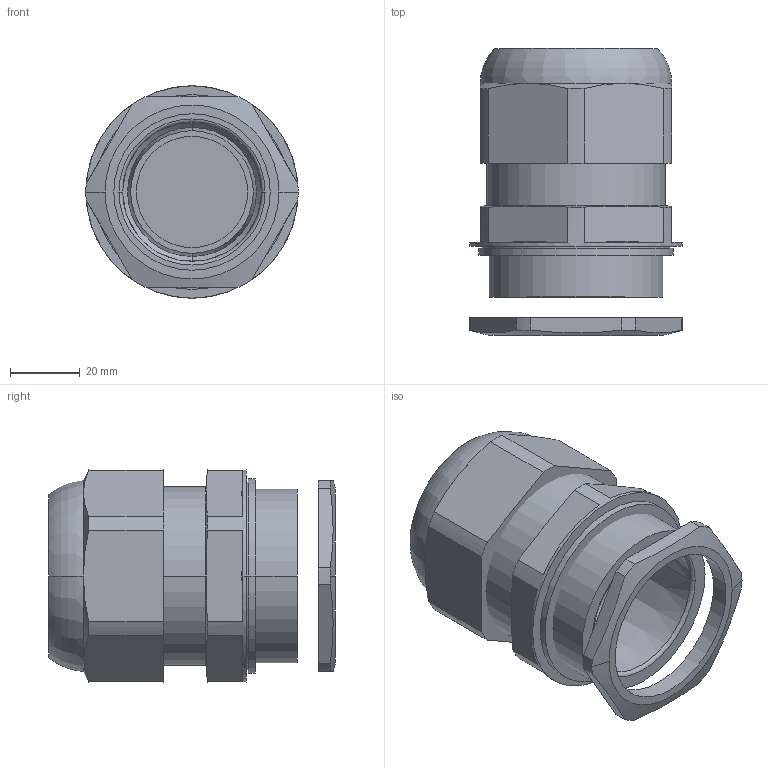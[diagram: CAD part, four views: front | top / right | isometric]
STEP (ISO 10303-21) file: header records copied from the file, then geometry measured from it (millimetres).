
FILE_DESCRIPTION (( 'STEP AP203' ), '1' );
FILE_NAME ('8161-_-M50-35_m_Mutter_m_Stopfen.STEP', '2015-04-02T07:48:15', ( '' ), ( '' ), 'SwSTEP 2.0', 'SolidWorks 2015', '' );
FILE_SCHEMA (( 'CONFIG_CONTROL_DESIGN' ));
Length unit declared in the file: millimetre
Products named in the file (1): 8161-_-M50-35_m_Mutter_m_Stopfen
Bounding box: 61 x 82.44 x 61 mm (x, y, z)
Volume: 97599.2 mm3; surface area: 57725.1 mm2
Topology: 6 solids, 6 shells, 658 faces, 1745 edges, 1089 vertices
Faces by surface type: cone 185, cylinder 165, plane 163, torus 93, bspline 52
Entity records: 20797 total; most frequent: CARTESIAN_POINT 4696, ORIENTED_EDGE 3438, DIRECTION 3406, EDGE_CURVE 1719, AXIS2_PLACEMENT_3D 1321, VERTEX_POINT 1089, VECTOR 764, LINE 764
